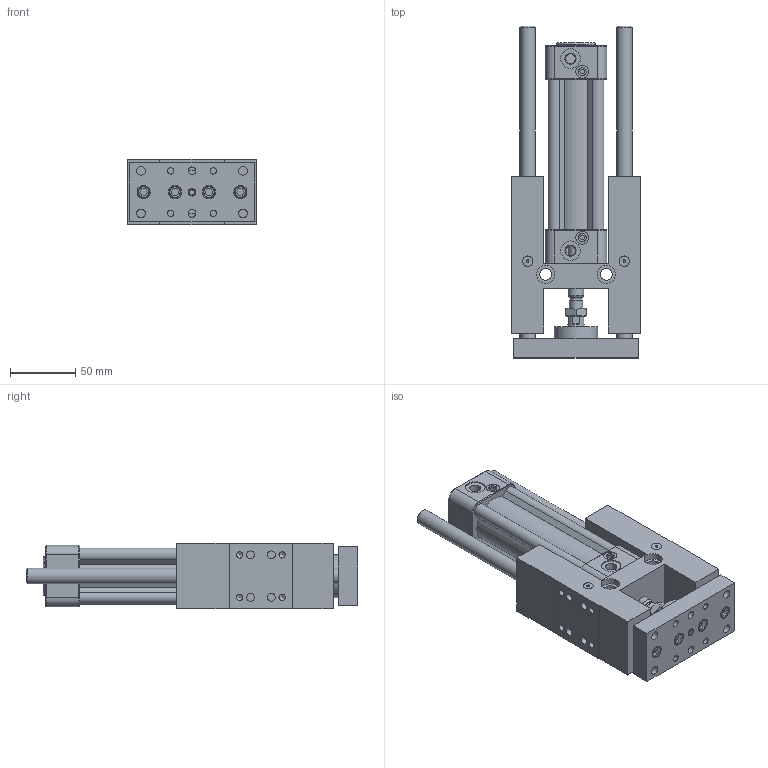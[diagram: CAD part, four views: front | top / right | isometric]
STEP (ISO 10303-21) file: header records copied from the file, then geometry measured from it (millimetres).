
FILE_DESCRIPTION((''),'2;1');
FILE_NAME('I:\3D電子目錄\氣缸\GHB(U)\GHB(U)\GHB(U)32\GHB(U)32x75.stp','2007-10-19T10:30:22',('Administrator'),(''),'Autodesk Inventor 11','Autodesk Inventor 11','');
FILE_SCHEMA(('AUTOMOTIVE_DESIGN { 1 0 10303 214 1 1 1 1 }'));
Length unit declared in the file: millimetre
Products named in the file (1): GHB(U)32
Bounding box: 99 x 254 x 50.2 mm (x, y, z)
Volume: 621851.1 mm3; surface area: 160681.1 mm2
Topology: 17 solids, 17 shells, 738 faces, 1598 edges, 986 vertices
Faces by surface type: plane 291, bspline 199, cylinder 159, cone 80, torus 9
Full cylindrical faces by diameter (mm): 2.6 x2, 4.9 x2, 4.917 x4, 5 x5, 5.5 x10, 6 x11, 6.5 x8, 7.5 x1, 7.8 x4, 7.9 x3, 8 x5, 9 x8, 10 x7, 10.2 x8, 12 x4, 13 x1, 14 x1, 15 x2, 17 x2, 30 x1, 32 x1, 33 x1
Entity records: 20771 total; most frequent: CARTESIAN_POINT 6160, DIRECTION 2934, ORIENTED_EDGE 2754, EDGE_CURVE 1377, AXIS2_PLACEMENT_3D 1157, EDGE_LOOP 1056, VERTEX_POINT 953, FACE_OUTER_BOUND 738
